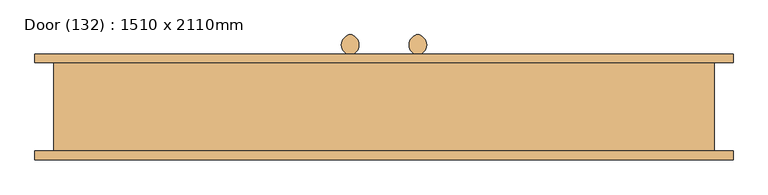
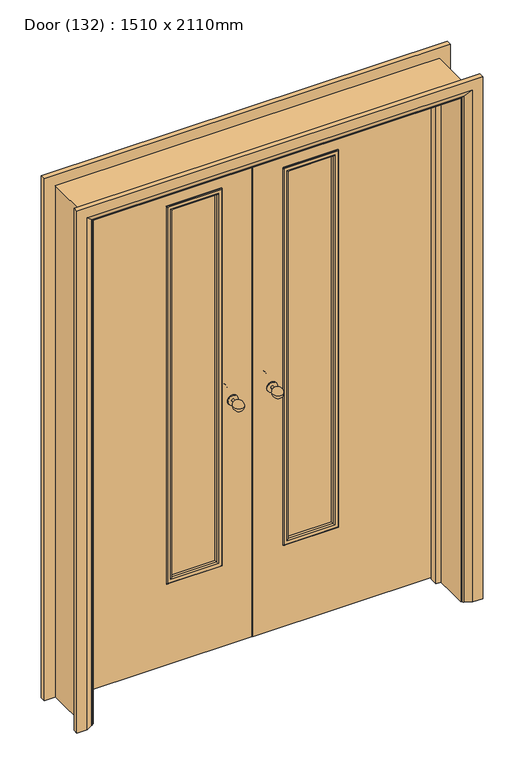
"""IFC4 building model written with IfcOpenShell, lengths in millimetres: door geometry, Door (132) : 1510 x 2110mm."""

from ifc_helpers import new_model, si_unit, point, frame, origin, place, context, project, spatial, polyline, circle_curve, ellipse_curve, trimmed, outline, extrude, faceted_brep, source, transform, mapped, element, save
from ifc_brep_helpers import plane_surface, cylinder_surface, revolved_surface, advanced_brep


def door_132_1510_x_2110mm_8a823f66(model_context):
    return source(origin(), model_context, "Body", "SolidModel", [
        advanced_brep(
        [(81.5, 49.0, 1007.0), (76.5, 4.562589, 1007.0), (71.5, 49.0, 1007.0), (71.5, 64.0, 1007.0), (81.5, 64.0, 1007.0), (56.5, 68.0, 1007.0), (96.5, 68.0, 1007.0), (56.5, 64.0, 1007.0), (96.5, 64.0, 1007.0)],
        [
            (0, 1, circle_curve(frame((73.3115138, 27.4213505, 1007.0), z_axis=(0.0, 0.0, -1.0), x_axis=(0.0, 1.0, 0.0)), 23.0800654)),
            (1, 2, circle_curve(frame((79.6884862, 27.4213505, 1007.0), z_axis=(0.0, 0.0, -1.0), x_axis=(0.0, 1.0, 0.0)), 23.0800654)),
            (2, 0, circle_curve(frame((76.5, 49.0, 1007.0), z_axis=(0.0, -1.0, 0.0), x_axis=(-1.0, 0.0, 0.0)), 5.0)),
            (0, 2, circle_curve(frame((76.5, 49.0, 1007.0), z_axis=(0.0, -1.0, 0.0), x_axis=(-1.0, 0.0, 0.0)), 5.0)),
            (2, 3),
            (3, 4, circle_curve(frame((76.5, 64.0, 1007.0), z_axis=(0.0, -1.0, 0.0), x_axis=(-1.0, 0.0, 0.0)), 5.0)),
            (4, 0),
            (4, 3, circle_curve(frame((76.5, 64.0, 1007.0), z_axis=(0.0, -1.0, 0.0), x_axis=(-1.0, 0.0, 0.0)), 5.0)),
            (5, 6, circle_curve(frame((76.5, 68.0, 1007.0), z_axis=(0.0, 1.0, 0.0), x_axis=(1.0, 0.0, 0.0)), 20.0)),
            (6, 5, circle_curve(frame((76.5, 68.0, 1007.0), z_axis=(0.0, 1.0, 0.0), x_axis=(1.0, 0.0, 0.0)), 20.0)),
            (7, 8, circle_curve(frame((76.5, 64.0, 1007.0), z_axis=(0.0, -1.0, 0.0), x_axis=(1.0, 0.0, 0.0)), 20.0)),
            (8, 7, circle_curve(frame((76.5, 64.0, 1007.0), z_axis=(0.0, -1.0, 0.0), x_axis=(1.0, 0.0, 0.0)), 20.0)),
            (6, 8),
            (7, 5),
        ],
        [
            revolved_surface(trimmed(ellipse_curve(frame((79.6884862, 27.4213505, 1007.0), z_axis=(0.0, 0.0, -1.0), x_axis=(0.0, 1.0, 0.0)), 23.0800654, 23.0800654), [point((76.5, 4.562589, 1007.0))], [point((71.5, 49.0, 1007.0))], True, "CARTESIAN"), (76.5, 64.0, 1007.0), (0.0, 1.0, 0.0)),
            cylinder_surface(frame((76.5, 64.0, 1007.0), z_axis=(0.0, 1.0, 0.0), x_axis=(-1.0, 0.0, 0.0)), 5.0),
            plane_surface(frame((96.5, 68.0, 1007.0), z_axis=(0.0, 1.0, 0.0), x_axis=(0.0, 0.0, 1.0))),
            plane_surface(frame((96.5, 64.0, 1007.0), z_axis=(0.0, -1.0, 0.0), x_axis=(0.0, 0.0, -1.0))),
            cylinder_surface(frame((76.5, 64.0, 1007.0), z_axis=(0.0, 1.0, 0.0), x_axis=(1.0, 0.0, 0.0)), 20.0),
        ],
        [
            (0, [[1, 2, 3]]),
            (0, [[-1, 4, -2]]),
            (1, [[5, 6, 7, -3]]),
            (1, [[-7, 8, -5, -4]]),
            (2, [[9, 10]]),
            (3, [[11, 12], [-8, -6]]),
            (4, [[13, -11, 14, -10]]),
            (4, [[-14, -12, -13, -9]]),
        ],
    ),
        advanced_brep(
        [(-71.5, 49.0, 1007.0), (-76.5, 4.562589, 1007.0), (-81.5, 49.0, 1007.0), (-81.5, 64.0, 1007.0), (-71.5, 64.0, 1007.0), (-96.5, 68.0, 1007.0), (-56.5, 68.0, 1007.0), (-96.5, 64.0, 1007.0), (-56.5, 64.0, 1007.0)],
        [
            (0, 1, circle_curve(frame((-79.6884862, 27.4213505, 1007.0), z_axis=(0.0, 0.0, -1.0), x_axis=(0.0, 1.0, 0.0)), 23.0800654)),
            (1, 2, circle_curve(frame((-73.3115138, 27.4213505, 1007.0), z_axis=(0.0, 0.0, -1.0), x_axis=(0.0, 1.0, 0.0)), 23.0800654)),
            (2, 0, circle_curve(frame((-76.5, 49.0, 1007.0), z_axis=(0.0, -1.0, 0.0), x_axis=(-1.0, 0.0, 0.0)), 5.0)),
            (0, 2, circle_curve(frame((-76.5, 49.0, 1007.0), z_axis=(0.0, -1.0, 0.0), x_axis=(-1.0, 0.0, 0.0)), 5.0)),
            (2, 3),
            (3, 4, circle_curve(frame((-76.5, 64.0, 1007.0), z_axis=(0.0, -1.0, 0.0), x_axis=(-1.0, 0.0, 0.0)), 5.0)),
            (4, 0),
            (4, 3, circle_curve(frame((-76.5, 64.0, 1007.0), z_axis=(0.0, -1.0, 0.0), x_axis=(-1.0, 0.0, 0.0)), 5.0)),
            (5, 6, circle_curve(frame((-76.5, 68.0, 1007.0), z_axis=(0.0, 1.0, 0.0), x_axis=(1.0, 0.0, 0.0)), 20.0)),
            (6, 5, circle_curve(frame((-76.5, 68.0, 1007.0), z_axis=(0.0, 1.0, 0.0), x_axis=(1.0, 0.0, 0.0)), 20.0)),
            (7, 8, circle_curve(frame((-76.5, 64.0, 1007.0), z_axis=(0.0, -1.0, 0.0), x_axis=(1.0, 0.0, 0.0)), 20.0)),
            (8, 7, circle_curve(frame((-76.5, 64.0, 1007.0), z_axis=(0.0, -1.0, 0.0), x_axis=(1.0, 0.0, 0.0)), 20.0)),
            (6, 8),
            (7, 5),
        ],
        [
            revolved_surface(trimmed(ellipse_curve(frame((-73.3115138, 27.4213505, 1007.0), z_axis=(0.0, 0.0, -1.0), x_axis=(0.0, 1.0, 0.0)), 23.0800654, 23.0800654), [point((-76.5, 4.562589, 1007.0))], [point((-81.5, 49.0, 1007.0))], True, "CARTESIAN"), (-76.5, 64.0, 1007.0), (0.0, 1.0, 0.0)),
            cylinder_surface(frame((-76.5, 64.0, 1007.0), z_axis=(0.0, 1.0, 0.0), x_axis=(-1.0, 0.0, 0.0)), 5.0),
            plane_surface(frame((-56.5, 68.0, 1007.0), z_axis=(0.0, 1.0, 0.0), x_axis=(0.0, 0.0, 1.0))),
            plane_surface(frame((-56.5, 64.0, 1007.0), z_axis=(0.0, -1.0, 0.0), x_axis=(0.0, 0.0, -1.0))),
            cylinder_surface(frame((-76.5, 64.0, 1007.0), z_axis=(0.0, 1.0, 0.0), x_axis=(1.0, 0.0, 0.0)), 20.0),
        ],
        [
            (0, [[1, 2, 3]]),
            (0, [[-1, 4, -2]]),
            (1, [[5, 6, 7, -3]]),
            (1, [[-7, 8, -5, -4]]),
            (2, [[9, 10]]),
            (3, [[11, 12], [-8, -6]]),
            (4, [[13, -11, 14, -10]]),
            (4, [[-14, -12, -13, -9]]),
        ],
    ),
        advanced_brep(
        [(81.5, 119.0, 1007.0), (71.5, 119.0, 1007.0), (76.5, 163.437411, 1007.0), (81.5, 104.0, 1007.0), (71.5, 104.0, 1007.0), (56.5, 100.0, 1007.0), (96.5, 100.0, 1007.0), (56.5, 104.0, 1007.0), (96.5, 104.0, 1007.0)],
        [
            (0, 1, circle_curve(frame((76.5, 119.0, 1007.0), z_axis=(0.0, 1.0, 0.0), x_axis=(-1.0, 0.0, 0.0)), 5.0)),
            (1, 2, circle_curve(frame((79.6884862, 140.5786495, 1007.0), z_axis=(0.0, 0.0, -1.0), x_axis=(0.0, -1.0, 0.0)), 23.0800654)),
            (2, 0, circle_curve(frame((73.3115138, 140.5786495, 1007.0), z_axis=(0.0, 0.0, -1.0), x_axis=(0.0, -1.0, 0.0)), 23.0800654)),
            (1, 0, circle_curve(frame((76.5, 119.0, 1007.0), z_axis=(0.0, 1.0, 0.0), x_axis=(-1.0, 0.0, 0.0)), 5.0)),
            (0, 3),
            (3, 4, circle_curve(frame((76.5, 104.0, 1007.0), z_axis=(0.0, 1.0, 0.0), x_axis=(-1.0, 0.0, 0.0)), 5.0)),
            (4, 1),
            (4, 3, circle_curve(frame((76.5, 104.0, 1007.0), z_axis=(0.0, 1.0, 0.0), x_axis=(-1.0, 0.0, 0.0)), 5.0)),
            (5, 6, circle_curve(frame((76.5, 100.0, 1007.0), z_axis=(0.0, -1.0, 0.0), x_axis=(1.0, 0.0, 0.0)), 20.0)),
            (6, 5, circle_curve(frame((76.5, 100.0, 1007.0), z_axis=(0.0, -1.0, 0.0), x_axis=(1.0, 0.0, 0.0)), 20.0)),
            (7, 8, circle_curve(frame((76.5, 104.0, 1007.0), z_axis=(0.0, 1.0, 0.0), x_axis=(1.0, 0.0, 0.0)), 20.0)),
            (8, 7, circle_curve(frame((76.5, 104.0, 1007.0), z_axis=(0.0, 1.0, 0.0), x_axis=(1.0, 0.0, 0.0)), 20.0)),
            (5, 7),
            (8, 6),
        ],
        [
            revolved_surface(trimmed(ellipse_curve(frame((79.6884862, 140.5786495, 1007.0), z_axis=(0.0, 0.0, 1.0), x_axis=(0.0, -1.0, 0.0)), 23.0800654, 23.0800654), [point((76.5, 163.437411, 1007.0))], [point((71.5, 119.0, 1007.0))], True, "CARTESIAN"), (76.5, 104.0, 1007.0), (0.0, -1.0, 0.0)),
            cylinder_surface(frame((76.5, 104.0, 1007.0), z_axis=(0.0, -1.0, 0.0), x_axis=(-1.0, 0.0, 0.0)), 5.0),
            plane_surface(frame((96.5, 100.0, 1007.0), z_axis=(0.0, -1.0, 0.0), x_axis=(0.0, 0.0, 1.0))),
            plane_surface(frame((96.5, 104.0, 1007.0), z_axis=(0.0, 1.0, 0.0), x_axis=(0.0, 0.0, -1.0))),
            cylinder_surface(frame((76.5, 104.0, 1007.0), z_axis=(0.0, -1.0, 0.0), x_axis=(1.0, 0.0, 0.0)), 20.0),
        ],
        [
            (0, [[1, 2, 3]]),
            (0, [[-2, 4, -3]]),
            (1, [[-1, 5, 6, 7]]),
            (1, [[-4, -7, 8, -5]]),
            (2, [[9, 10]]),
            (3, [[11, 12], [-6, -8]]),
            (4, [[-9, 13, -12, 14]]),
            (4, [[-10, -14, -11, -13]]),
        ],
    ),
        advanced_brep(
        [(-71.5, 119.0, 1007.0), (-81.5, 119.0, 1007.0), (-76.5, 163.437411, 1007.0), (-71.5, 104.0, 1007.0), (-81.5, 104.0, 1007.0), (-96.5, 100.0, 1007.0), (-56.5, 100.0, 1007.0), (-96.5, 104.0, 1007.0), (-56.5, 104.0, 1007.0)],
        [
            (0, 1, circle_curve(frame((-76.5, 119.0, 1007.0), z_axis=(0.0, 1.0, 0.0), x_axis=(-1.0, 0.0, 0.0)), 5.0)),
            (1, 2, circle_curve(frame((-73.3115138, 140.5786495, 1007.0), z_axis=(0.0, 0.0, -1.0), x_axis=(0.0, -1.0, 0.0)), 23.0800654)),
            (2, 0, circle_curve(frame((-79.6884862, 140.5786495, 1007.0), z_axis=(0.0, 0.0, -1.0), x_axis=(0.0, -1.0, 0.0)), 23.0800654)),
            (1, 0, circle_curve(frame((-76.5, 119.0, 1007.0), z_axis=(0.0, 1.0, 0.0), x_axis=(-1.0, 0.0, 0.0)), 5.0)),
            (0, 3),
            (3, 4, circle_curve(frame((-76.5, 104.0, 1007.0), z_axis=(0.0, 1.0, 0.0), x_axis=(-1.0, 0.0, 0.0)), 5.0)),
            (4, 1),
            (4, 3, circle_curve(frame((-76.5, 104.0, 1007.0), z_axis=(0.0, 1.0, 0.0), x_axis=(-1.0, 0.0, 0.0)), 5.0)),
            (5, 6, circle_curve(frame((-76.5, 100.0, 1007.0), z_axis=(0.0, -1.0, 0.0), x_axis=(1.0, 0.0, 0.0)), 20.0)),
            (6, 5, circle_curve(frame((-76.5, 100.0, 1007.0), z_axis=(0.0, -1.0, 0.0), x_axis=(1.0, 0.0, 0.0)), 20.0)),
            (7, 8, circle_curve(frame((-76.5, 104.0, 1007.0), z_axis=(0.0, 1.0, 0.0), x_axis=(1.0, 0.0, 0.0)), 20.0)),
            (8, 7, circle_curve(frame((-76.5, 104.0, 1007.0), z_axis=(0.0, 1.0, 0.0), x_axis=(1.0, 0.0, 0.0)), 20.0)),
            (5, 7),
            (8, 6),
        ],
        [
            revolved_surface(trimmed(ellipse_curve(frame((-73.3115138, 140.5786495, 1007.0), z_axis=(0.0, 0.0, 1.0), x_axis=(0.0, -1.0, 0.0)), 23.0800654, 23.0800654), [point((-76.5, 163.437411, 1007.0))], [point((-81.5, 119.0, 1007.0))], True, "CARTESIAN"), (-76.5, 104.0, 1007.0), (0.0, -1.0, 0.0)),
            cylinder_surface(frame((-76.5, 104.0, 1007.0), z_axis=(0.0, -1.0, 0.0), x_axis=(-1.0, 0.0, 0.0)), 5.0),
            plane_surface(frame((-56.5, 100.0, 1007.0), z_axis=(0.0, -1.0, 0.0), x_axis=(0.0, 0.0, 1.0))),
            plane_surface(frame((-56.5, 104.0, 1007.0), z_axis=(0.0, 1.0, 0.0), x_axis=(0.0, 0.0, -1.0))),
            cylinder_surface(frame((-76.5, 104.0, 1007.0), z_axis=(0.0, -1.0, 0.0), x_axis=(1.0, 0.0, 0.0)), 20.0),
        ],
        [
            (0, [[1, 2, 3]]),
            (0, [[-2, 4, -3]]),
            (1, [[-1, 5, 6, 7]]),
            (1, [[-4, -7, 8, -5]]),
            (2, [[9, 10]]),
            (3, [[11, 12], [-6, -8]]),
            (4, [[-9, 13, -12, 14]]),
            (4, [[-10, -14, -11, -13]]),
        ],
    ),
        extrude(outline(polyline([(2102.0, -747.0), (0.0, -747.0), (0.0, -715.0), (2070.0, -715.0), (2070.0, 715.0), (0.0, 715.0), (0.0, 747.0), (2102.0, 747.0), (2102.0, -747.0)])), frame((0.0, -100.0, 0.0), z_axis=(0.0, 1.0, 0.0), x_axis=(0.0, 0.0, 1.0)), (0.0, 0.0, 1.0), 200.0),
        faceted_brep([(-696.0, 65.0, 0.0), (-696.0, 33.0, 0.0), (-715.0, 33.0, 0.0), (-715.0, 65.0, 0.0), (-696.0, 65.0, 2051.0), (-696.0, 33.0, 2051.0), (-715.0, 33.0, 2070.0), (-715.0, 65.0, 2070.0), (696.0, 65.0, 0.0), (715.0, 65.0, 0.0), (715.0, 33.0, 0.0), (696.0, 33.0, 0.0), (696.0, 65.0, 2051.0), (715.0, 65.0, 2070.0), (715.0, 33.0, 2070.0), (696.0, 33.0, 2051.0)], [[[0, 1, 2, 3]], [[1, 0, 4, 5]], [[2, 1, 5, 6]], [[3, 2, 6, 7]], [[0, 3, 7, 4]], [[8, 9, 10, 11]], [[12, 13, 9, 8]], [[13, 14, 10, 9]], [[14, 15, 11, 10]], [[15, 12, 8, 11]], [[5, 4, 12, 15]], [[6, 5, 15, 14]], [[7, 6, 14, 13]], [[4, 7, 13, 12]]]),
        advanced_brep(
        [(790.0, 120.0, 0.0), (790.0, 100.0, 0.0), (720.0, 100.0, 0.0), (724.0, 106.0, 0.0), (750.0, 120.0, 0.0), (790.0, 120.0, 2145.0), (790.0, 100.0, 2145.0), (-790.0, 100.0, 2145.0), (-790.0, 100.0, 0.0), (-720.0, 100.0, 0.0), (-720.0, 100.0, 2075.0), (720.0, 100.0, 2075.0), (724.0, 106.0, 2079.0), (750.0, 120.0, 2105.0), (-750.0, 120.0, 2105.0), (-750.0, 120.0, 0.0), (-790.0, 120.0, 0.0), (-790.0, 120.0, 2145.0), (-724.0, 106.0, 0.0), (-724.0, 106.0, 2079.0)],
        [
            (0, 1),
            (1, 2),
            (2, 3, circle_curve(frame((728.0, 99.0, 0.0), z_axis=(0.0, 0.0, -1.0), x_axis=(1.0, 0.0, 0.0)), 8.0622577)),
            (3, 4),
            (4, 0),
            (0, 5),
            (5, 6),
            (6, 1),
            (6, 7),
            (7, 8),
            (8, 9),
            (9, 10),
            (10, 11),
            (11, 2),
            (11, 12, ellipse_curve(frame((728.0, 99.0, 2083.0), z_axis=(0.7071067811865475, 0.0, -0.7071067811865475), x_axis=(-0.7071067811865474, 0.0, -0.7071067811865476)), 11.4017543, 8.0622577)),
            (12, 3),
            (12, 13),
            (13, 4),
            (13, 14),
            (14, 15),
            (15, 16),
            (16, 17),
            (17, 5),
            (7, 17),
            (16, 8),
            (15, 18),
            (18, 9, circle_curve(frame((-728.0, 99.0, 0.0), z_axis=(0.0, 0.0, -1.0), x_axis=(-1.0, 0.0, 0.0)), 8.0622577)),
            (19, 10, ellipse_curve(frame((-728.0, 99.0, 2083.0), z_axis=(-0.7071067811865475, 0.0, -0.7071067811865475), x_axis=(-0.7071067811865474, 0.0, 0.7071067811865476)), 11.4017543, 8.0622577)),
            (18, 19),
            (14, 19),
            (19, 12),
        ],
        [
            plane_surface(frame((720.0, 100.0, 0.0), z_axis=(0.0, 0.0, -1.0), x_axis=(0.0, -1.0, 0.0))),
            plane_surface(frame((790.0, 120.0, 0.0), z_axis=(1.0, 0.0, 0.0), x_axis=(0.0, 0.0, 1.0))),
            plane_surface(frame((790.0, 100.0, 0.0), z_axis=(0.0, -1.0, 0.0), x_axis=(0.0, 0.0, 1.0))),
            cylinder_surface(frame((728.0, 99.0, 0.0), z_axis=(0.0, 0.0, -1.0), x_axis=(1.0, 0.0, 0.0)), 8.0622577),
            plane_surface(frame((724.0, 106.0, 0.0), z_axis=(-0.4740998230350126, 0.8804710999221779, 0.0), x_axis=(0.0, 0.0, 1.0))),
            plane_surface(frame((750.0, 120.0, 0.0), z_axis=(0.0, 1.0, 0.0), x_axis=(0.0, 0.0, 1.0))),
            plane_surface(frame((-790.0, 120.0, 2145.0), z_axis=(-1.0, 0.0, 0.0), x_axis=(0.0, 0.0, -1.0))),
            plane_surface(frame((-720.0, 100.0, 0.0), z_axis=(0.0, 0.0, -1.0), x_axis=(0.0, -1.0, 0.0))),
            cylinder_surface(frame((-728.0, 99.0, 2075.0), z_axis=(0.0, 0.0, 1.0), x_axis=(-1.0, 0.0, 0.0)), 8.0622577),
            plane_surface(frame((-724.0, 106.0, 2079.0), z_axis=(0.4740998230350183, 0.8804710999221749, 0.0), x_axis=(0.0, 0.0, -1.0))),
            plane_surface(frame((790.0, 120.0, 2145.0), z_axis=(0.0, 0.0, 1.0), x_axis=(-1.0, 0.0, 0.0))),
            cylinder_surface(frame((720.0, 99.0, 2083.0), z_axis=(1.0, 0.0, 0.0), x_axis=(0.0, 0.0, 1.0)), 8.0622577),
            plane_surface(frame((724.0, 106.0, 2079.0), z_axis=(0.0, 0.8804710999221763, -0.4740998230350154), x_axis=(-1.0, 0.0, 0.0))),
        ],
        [
            (0, [[1, 2, 3, 4, 5]]),
            (1, [[-1, 6, 7, 8]]),
            (2, [[-2, -8, 9, 10, 11, 12, 13, 14]]),
            (3, [[-3, -14, 15, 16]]),
            (4, [[-4, -16, 17, 18]]),
            (5, [[-5, -18, 19, 20, 21, 22, 23, -6]]),
            (6, [[24, -22, 25, -10]]),
            (7, [[-21, 26, 27, -11, -25]]),
            (8, [[28, -12, -27, 29]]),
            (9, [[30, -29, -26, -20]]),
            (10, [[-7, -23, -24, -9]]),
            (11, [[-15, -13, -28, 31]]),
            (12, [[-17, -31, -30, -19]]),
        ],
    ),
        advanced_brep(
        [(-790.0, -120.0, 0.0), (-790.0, -100.0, 0.0), (-720.0, -100.0, 0.0), (-724.0, -106.0, 0.0), (-750.0, -120.0, 0.0), (-790.0, -120.0, 2145.0), (-790.0, -100.0, 2145.0), (790.0, -100.0, 2145.0), (790.0, -100.0, 0.0), (720.0, -100.0, 0.0), (720.0, -100.0, 2075.0), (-720.0, -100.0, 2075.0), (-724.0, -106.0, 2079.0), (-750.0, -120.0, 2105.0), (750.0, -120.0, 2105.0), (750.0, -120.0, 0.0), (790.0, -120.0, 0.0), (790.0, -120.0, 2145.0), (724.0, -106.0, 0.0), (724.0, -106.0, 2079.0)],
        [
            (0, 1),
            (1, 2),
            (2, 3, circle_curve(frame((-728.0, -99.0, 0.0), z_axis=(0.0, 0.0, -1.0), x_axis=(-1.0, 0.0, 0.0)), 8.0622577)),
            (3, 4),
            (4, 0),
            (0, 5),
            (5, 6),
            (6, 1),
            (6, 7),
            (7, 8),
            (8, 9),
            (9, 10),
            (10, 11),
            (11, 2),
            (11, 12, ellipse_curve(frame((-728.0, -99.0, 2083.0), z_axis=(-0.7071067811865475, 0.0, -0.7071067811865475), x_axis=(0.7071067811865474, 0.0, -0.7071067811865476)), 11.4017543, 8.0622577)),
            (12, 3),
            (12, 13),
            (13, 4),
            (13, 14),
            (14, 15),
            (15, 16),
            (16, 17),
            (17, 5),
            (7, 17),
            (16, 8),
            (15, 18),
            (18, 9, circle_curve(frame((728.0, -99.0, 0.0), z_axis=(0.0, 0.0, -1.0), x_axis=(1.0, 0.0, 0.0)), 8.0622577)),
            (19, 10, ellipse_curve(frame((728.0, -99.0, 2083.0), z_axis=(0.7071067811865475, 0.0, -0.7071067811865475), x_axis=(0.7071067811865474, 0.0, 0.7071067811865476)), 11.4017543, 8.0622577)),
            (18, 19),
            (14, 19),
            (19, 12),
        ],
        [
            plane_surface(frame((-720.0, -100.0, 0.0), z_axis=(0.0, 0.0, -1.0), x_axis=(0.0, -1.0, 0.0))),
            plane_surface(frame((-790.0, -120.0, 0.0), z_axis=(-1.0, 0.0, 0.0), x_axis=(0.0, 0.0, 1.0))),
            plane_surface(frame((-790.0, -100.0, 0.0), z_axis=(0.0, 1.0, 0.0), x_axis=(0.0, 0.0, 1.0))),
            cylinder_surface(frame((-728.0, -99.0, 0.0), z_axis=(0.0, 0.0, -1.0), x_axis=(-1.0, 0.0, 0.0)), 8.0622577),
            plane_surface(frame((-724.0, -106.0, 0.0), z_axis=(0.4740998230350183, -0.8804710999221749, 0.0), x_axis=(0.0, 0.0, 1.0))),
            plane_surface(frame((-750.0, -120.0, 0.0), z_axis=(0.0, -1.0, 0.0), x_axis=(0.0, 0.0, 1.0))),
            plane_surface(frame((790.0, -120.0, 2145.0), z_axis=(1.0, 0.0, 0.0), x_axis=(0.0, 0.0, -1.0))),
            plane_surface(frame((720.0, -100.0, 0.0), z_axis=(0.0, 0.0, -1.0), x_axis=(0.0, -1.0, 0.0))),
            cylinder_surface(frame((728.0, -99.0, 2075.0), z_axis=(0.0, 0.0, 1.0), x_axis=(1.0, 0.0, 0.0)), 8.0622577),
            plane_surface(frame((724.0, -106.0, 2079.0), z_axis=(-0.4740998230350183, -0.8804710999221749, 0.0), x_axis=(0.0, 0.0, -1.0))),
            plane_surface(frame((-790.0, -120.0, 2145.0), z_axis=(0.0, 0.0, 1.0), x_axis=(1.0, 0.0, 0.0))),
            cylinder_surface(frame((-720.0, -99.0, 2083.0), z_axis=(-1.0, 0.0, 0.0), x_axis=(0.0, 0.0, 1.0)), 8.0622577),
            plane_surface(frame((-724.0, -106.0, 2079.0), z_axis=(0.0, -0.8804710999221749, -0.4740998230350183), x_axis=(1.0, 0.0, 0.0))),
        ],
        [
            (0, [[1, 2, 3, 4, 5]]),
            (1, [[-1, 6, 7, 8]]),
            (2, [[-2, -8, 9, 10, 11, 12, 13, 14]]),
            (3, [[-3, -14, 15, 16]]),
            (4, [[-4, -16, 17, 18]]),
            (5, [[-5, -18, 19, 20, 21, 22, 23, -6]]),
            (6, [[24, -22, 25, -10]]),
            (7, [[-21, 26, 27, -11, -25]]),
            (8, [[28, -12, -27, 29]]),
            (9, [[30, -29, -26, -20]]),
            (10, [[-7, -23, -24, -9]]),
            (11, [[-15, -13, -28, 31]]),
            (12, [[-17, -31, -30, -19]]),
        ],
    ),
        extrude(outline(polyline([(5.753223, 712.0), (2067.0, 712.0), (2067.0, 1.5), (5.753223, 1.5), (5.753223, 712.0)]), holes=[polyline([(1885.0, 126.5), (1885.0, 326.5), (350.0, 326.5), (350.0, 126.5), (1885.0, 126.5)])]), frame((0.0, 68.0, 0.0), z_axis=(0.0, 1.0, 0.0), x_axis=(0.0, 0.0, 1.0)), (0.0, 0.0, 1.0), 32.0),
        extrude(outline(polyline([(5.753223, -712.0), (5.753223, -1.5), (2067.0, -1.5), (2067.0, -712.0), (5.753223, -712.0)]), holes=[polyline([(1885.0, -326.5), (1885.0, -126.5), (350.0, -126.5), (350.0, -326.5), (1885.0, -326.5)])]), frame((0.0, 68.0, 0.0), z_axis=(0.0, 1.0, 0.0), x_axis=(0.0, 0.0, 1.0)), (0.0, 0.0, 1.0), 32.0),
        extrude(outline(polyline([(326.5, 78.0), (126.5, 78.0), (126.5, 90.0), (326.5, 90.0), (326.5, 78.0)])), frame((0.0, 0.0, 350.0), z_axis=(0.0, 0.0, 1.0), x_axis=(1.0, 0.0, 0.0)), (0.0, 0.0, 1.0), 1535.0),
        extrude(outline(polyline([(-126.5, 78.0), (-326.5, 78.0), (-326.5, 90.0), (-126.5, 90.0), (-126.5, 78.0)])), frame((0.0, 0.0, 350.0), z_axis=(0.0, 0.0, 1.0), x_axis=(1.0, 0.0, 0.0)), (0.0, 0.0, 1.0), 1535.0),
        advanced_brep(
        [(-326.5, 90.0, 1885.0), (-326.5, 100.0, 1885.0), (-326.5, 100.0, 350.0), (-326.5, 90.0, 350.0), (-314.5, 101.0, 1873.0), (-314.5, 90.0, 1873.0), (-314.5, 90.0, 362.0), (-314.5, 101.0, 362.0), (-319.5, 106.0, 1878.0), (-319.5, 106.0, 357.0), (-334.5, 104.0, 1893.0), (-332.5, 106.0, 1891.0), (-332.5, 106.0, 344.0), (-334.5, 104.0, 342.0), (-334.5, 100.0, 1893.0), (-334.5, 100.0, 342.0), (-126.5, 100.0, 350.0), (-126.5, 90.0, 350.0), (-138.5, 90.0, 362.0), (-138.5, 101.0, 362.0), (-133.5, 106.0, 357.0), (-120.5, 106.0, 344.0), (-118.5, 104.0, 342.0), (-118.5, 100.0, 342.0), (-126.5, 100.0, 1885.0), (-126.5, 90.0, 1885.0), (-138.5, 90.0, 1873.0), (-138.5, 101.0, 1873.0), (-133.5, 106.0, 1878.0), (-120.5, 106.0, 1891.0), (-118.5, 104.0, 1893.0), (-118.5, 100.0, 1893.0)],
        [
            (0, 1),
            (1, 2),
            (2, 3),
            (3, 0),
            (4, 5),
            (5, 6),
            (6, 7),
            (7, 4),
            (8, 4, ellipse_curve(frame((-319.5, 101.0, 1878.0), z_axis=(-0.7071067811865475, 0.0, -0.7071067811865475), x_axis=(-0.7071067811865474, 0.0, 0.7071067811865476)), 7.0710678, 5.0)),
            (7, 9, ellipse_curve(frame((-319.5, 101.0, 357.0), z_axis=(-0.7071067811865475, 0.0, 0.7071067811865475), x_axis=(0.7071067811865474, 0.0, 0.7071067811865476)), 7.0710678, 5.0)),
            (9, 8),
            (10, 11, ellipse_curve(frame((-332.5, 104.0, 1891.0), z_axis=(-0.7071067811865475, 0.0, -0.7071067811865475), x_axis=(-0.7071067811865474, 0.0, 0.7071067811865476)), 2.8284271, 2.0)),
            (11, 12),
            (12, 13, ellipse_curve(frame((-332.5, 104.0, 344.0), z_axis=(-0.7071067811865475, 0.0, 0.7071067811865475), x_axis=(0.7071067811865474, 0.0, 0.7071067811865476)), 2.8284271, 2.0)),
            (13, 10),
            (14, 10),
            (13, 15),
            (15, 14),
            (2, 16),
            (16, 17),
            (17, 3),
            (6, 18),
            (18, 19),
            (19, 7),
            (19, 20, ellipse_curve(frame((-133.5, 101.0, 357.0), z_axis=(-0.7071067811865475, 0.0, -0.7071067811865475), x_axis=(-0.7071067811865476, 0.0, 0.7071067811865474)), 7.0710678, 5.0)),
            (20, 9),
            (12, 21),
            (21, 22, ellipse_curve(frame((-120.5, 104.0, 344.0), z_axis=(-0.7071067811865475, 0.0, -0.7071067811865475), x_axis=(-0.7071067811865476, 0.0, 0.7071067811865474)), 2.8284271, 2.0)),
            (22, 13),
            (22, 23),
            (23, 15),
            (16, 24),
            (24, 25),
            (25, 17),
            (18, 26),
            (26, 27),
            (27, 19),
            (27, 28, ellipse_curve(frame((-133.5, 101.0, 1878.0), z_axis=(0.7071067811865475, 0.0, -0.7071067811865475), x_axis=(-0.7071067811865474, 0.0, -0.7071067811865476)), 7.0710678, 5.0)),
            (28, 20),
            (21, 29),
            (29, 30, ellipse_curve(frame((-120.5, 104.0, 1891.0), z_axis=(0.7071067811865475, 0.0, -0.7071067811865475), x_axis=(-0.7071067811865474, 0.0, -0.7071067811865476)), 2.8284271, 2.0)),
            (30, 22),
            (30, 31),
            (31, 23),
            (31, 14),
            (1, 24),
            (0, 25),
            (5, 26),
            (4, 27),
            (8, 28),
            (11, 29),
            (10, 30),
        ],
        [
            plane_surface(frame((-326.5, 100.0, 1885.0), z_axis=(-1.0, 0.0, 0.0), x_axis=(0.0, 0.0, -1.0))),
            plane_surface(frame((-314.5, 90.0, 1873.0), z_axis=(1.0, 0.0, 0.0), x_axis=(0.0, 0.0, -1.0))),
            cylinder_surface(frame((-319.5, 101.0, 1885.0), z_axis=(0.0, 0.0, 1.0), x_axis=(-1.0, 0.0, 0.0)), 5.0),
            cylinder_surface(frame((-332.5, 104.0, 1885.0), z_axis=(0.0, 0.0, 1.0), x_axis=(-1.0, 0.0, 0.0)), 2.0),
            plane_surface(frame((-334.5, 104.0, 1893.0), z_axis=(-1.0, 0.0, 0.0), x_axis=(0.0, 0.0, -1.0))),
            plane_surface(frame((-326.5, 100.0, 350.0), z_axis=(0.0, 0.0, -1.0), x_axis=(1.0, 0.0, 0.0))),
            plane_surface(frame((-314.5, 90.0, 362.0), z_axis=(0.0, 0.0, 1.0), x_axis=(1.0, 0.0, 0.0))),
            cylinder_surface(frame((-326.5, 101.0, 357.0), z_axis=(-1.0, 0.0, 0.0), x_axis=(0.0, 0.0, -1.0)), 5.0),
            cylinder_surface(frame((-326.5, 104.0, 344.0), z_axis=(-1.0, 0.0, 0.0), x_axis=(0.0, 0.0, -1.0)), 2.0),
            plane_surface(frame((-334.5, 104.0, 342.0), z_axis=(0.0, 0.0, -1.0), x_axis=(1.0, 0.0, 0.0))),
            plane_surface(frame((-126.5, 100.0, 350.0), z_axis=(1.0, 0.0, 0.0), x_axis=(0.0, 0.0, 1.0))),
            plane_surface(frame((-138.5, 90.0, 362.0), z_axis=(-1.0, 0.0, 0.0), x_axis=(0.0, 0.0, 1.0))),
            cylinder_surface(frame((-133.5, 101.0, 350.0), z_axis=(0.0, 0.0, -1.0), x_axis=(1.0, 0.0, 0.0)), 5.0),
            cylinder_surface(frame((-120.5, 104.0, 350.0), z_axis=(0.0, 0.0, -1.0), x_axis=(1.0, 0.0, 0.0)), 2.0),
            plane_surface(frame((-118.5, 104.0, 342.0), z_axis=(1.0, 0.0, 0.0), x_axis=(0.0, 0.0, 1.0))),
            plane_surface(frame((-118.5, 100.0, 1893.0), z_axis=(0.0, -1.0, 0.0), x_axis=(-1.0, 0.0, 0.0))),
            plane_surface(frame((-126.5, 100.0, 1885.0), z_axis=(0.0, 0.0, 1.0), x_axis=(-1.0, 0.0, 0.0))),
            plane_surface(frame((-126.5, 90.0, 1885.0), z_axis=(0.0, -1.0, 0.0), x_axis=(-1.0, 0.0, 0.0))),
            plane_surface(frame((-138.5, 90.0, 1873.0), z_axis=(0.0, 0.0, -1.0), x_axis=(-1.0, 0.0, 0.0))),
            cylinder_surface(frame((-126.5, 101.0, 1878.0), z_axis=(1.0, 0.0, 0.0), x_axis=(0.0, 0.0, 1.0)), 5.0),
            plane_surface(frame((-133.5, 106.0, 1878.0), z_axis=(0.0, 1.0, 0.0), x_axis=(-1.0, 0.0, 0.0))),
            cylinder_surface(frame((-126.5, 104.0, 1891.0), z_axis=(1.0, 0.0, 0.0), x_axis=(0.0, 0.0, 1.0)), 2.0),
            plane_surface(frame((-118.5, 104.0, 1893.0), z_axis=(0.0, 0.0, 1.0), x_axis=(-1.0, 0.0, 0.0))),
        ],
        [
            (0, [[1, 2, 3, 4]]),
            (1, [[5, 6, 7, 8]]),
            (2, [[9, -8, 10, 11]]),
            (3, [[12, 13, 14, 15]]),
            (4, [[16, -15, 17, 18]]),
            (5, [[-3, 19, 20, 21]]),
            (6, [[-7, 22, 23, 24]]),
            (7, [[-10, -24, 25, 26]]),
            (8, [[-14, 27, 28, 29]]),
            (9, [[-17, -29, 30, 31]]),
            (10, [[-20, 32, 33, 34]]),
            (11, [[-23, 35, 36, 37]]),
            (12, [[-25, -37, 38, 39]]),
            (13, [[-28, 40, 41, 42]]),
            (14, [[-30, -42, 43, 44]]),
            (15, [[-31, -44, 45, -18], [46, -32, -19, -2]]),
            (16, [[-33, -46, -1, 47]]),
            (17, [[-21, -34, -47, -4], [48, -35, -22, -6]]),
            (18, [[-36, -48, -5, 49]]),
            (19, [[-38, -49, -9, 50]]),
            (20, [[51, -40, -27, -13], [-26, -39, -50, -11]]),
            (21, [[-41, -51, -12, 52]]),
            (22, [[-43, -52, -16, -45]]),
        ],
    ),
        advanced_brep(
        [(326.5, 90.0, 350.0), (326.5, 100.0, 350.0), (326.5, 100.0, 1885.0), (326.5, 90.0, 1885.0), (314.5, 101.0, 362.0), (314.5, 90.0, 362.0), (314.5, 90.0, 1873.0), (314.5, 101.0, 1873.0), (319.5, 106.0, 357.0), (319.5, 106.0, 1878.0), (334.5, 104.0, 342.0), (332.5, 106.0, 344.0), (332.5, 106.0, 1891.0), (334.5, 104.0, 1893.0), (334.5, 100.0, 342.0), (334.5, 100.0, 1893.0), (126.5, 100.0, 1885.0), (126.5, 90.0, 1885.0), (138.5, 90.0, 1873.0), (138.5, 101.0, 1873.0), (133.5, 106.0, 1878.0), (120.5, 106.0, 1891.0), (118.5, 104.0, 1893.0), (118.5, 100.0, 1893.0), (126.5, 100.0, 350.0), (126.5, 90.0, 350.0), (138.5, 90.0, 362.0), (138.5, 101.0, 362.0), (133.5, 106.0, 357.0), (120.5, 106.0, 344.0), (118.5, 104.0, 342.0), (118.5, 100.0, 342.0)],
        [
            (0, 1),
            (1, 2),
            (2, 3),
            (3, 0),
            (4, 5),
            (5, 6),
            (6, 7),
            (7, 4),
            (8, 4, ellipse_curve(frame((319.5, 101.0, 357.0), z_axis=(0.7071067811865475, 0.0, 0.7071067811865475), x_axis=(0.7071067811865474, 0.0, -0.7071067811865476)), 7.0710678, 5.0)),
            (7, 9, ellipse_curve(frame((319.5, 101.0, 1878.0), z_axis=(0.7071067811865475, 0.0, -0.7071067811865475), x_axis=(-0.7071067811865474, 0.0, -0.7071067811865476)), 7.0710678, 5.0)),
            (9, 8),
            (10, 11, ellipse_curve(frame((332.5, 104.0, 344.0), z_axis=(0.7071067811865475, 0.0, 0.7071067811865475), x_axis=(0.7071067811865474, 0.0, -0.7071067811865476)), 2.8284271, 2.0)),
            (11, 12),
            (12, 13, ellipse_curve(frame((332.5, 104.0, 1891.0), z_axis=(0.7071067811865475, 0.0, -0.7071067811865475), x_axis=(-0.7071067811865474, 0.0, -0.7071067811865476)), 2.8284271, 2.0)),
            (13, 10),
            (14, 10),
            (13, 15),
            (15, 14),
            (2, 16),
            (16, 17),
            (17, 3),
            (6, 18),
            (18, 19),
            (19, 7),
            (19, 20, ellipse_curve(frame((133.5, 101.0, 1878.0), z_axis=(0.7071067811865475, 0.0, 0.7071067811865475), x_axis=(0.7071067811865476, 0.0, -0.7071067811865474)), 7.0710678, 5.0)),
            (20, 9),
            (12, 21),
            (21, 22, ellipse_curve(frame((120.5, 104.0, 1891.0), z_axis=(0.7071067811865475, 0.0, 0.7071067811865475), x_axis=(0.7071067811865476, 0.0, -0.7071067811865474)), 2.8284271, 2.0)),
            (22, 13),
            (22, 23),
            (23, 15),
            (16, 24),
            (24, 25),
            (25, 17),
            (18, 26),
            (26, 27),
            (27, 19),
            (27, 28, ellipse_curve(frame((133.5, 101.0, 357.0), z_axis=(-0.7071067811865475, 0.0, 0.7071067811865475), x_axis=(0.7071067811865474, 0.0, 0.7071067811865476)), 7.0710678, 5.0)),
            (28, 20),
            (21, 29),
            (29, 30, ellipse_curve(frame((120.5, 104.0, 344.0), z_axis=(-0.7071067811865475, 0.0, 0.7071067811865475), x_axis=(0.7071067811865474, 0.0, 0.7071067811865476)), 2.8284271, 2.0)),
            (30, 22),
            (30, 31),
            (31, 23),
            (31, 14),
            (1, 24),
            (0, 25),
            (5, 26),
            (4, 27),
            (8, 28),
            (11, 29),
            (10, 30),
        ],
        [
            plane_surface(frame((326.5, 100.0, 350.0), z_axis=(1.0, 0.0, 0.0), x_axis=(0.0, 0.0, 1.0))),
            plane_surface(frame((314.5, 90.0, 362.0), z_axis=(-1.0, 0.0, 0.0), x_axis=(0.0, 0.0, 1.0))),
            cylinder_surface(frame((319.5, 101.0, 350.0), z_axis=(0.0, 0.0, -1.0), x_axis=(1.0, 0.0, 0.0)), 5.0),
            cylinder_surface(frame((332.5, 104.0, 350.0), z_axis=(0.0, 0.0, -1.0), x_axis=(1.0, 0.0, 0.0)), 2.0),
            plane_surface(frame((334.5, 104.0, 342.0), z_axis=(1.0, 0.0, 0.0), x_axis=(0.0, 0.0, 1.0))),
            plane_surface(frame((326.5, 100.0, 1885.0), z_axis=(0.0, 0.0, 1.0), x_axis=(-1.0, 0.0, 0.0))),
            plane_surface(frame((314.5, 90.0, 1873.0), z_axis=(0.0, 0.0, -1.0), x_axis=(-1.0, 0.0, 0.0))),
            cylinder_surface(frame((326.5, 101.0, 1878.0), z_axis=(1.0, 0.0, 0.0), x_axis=(0.0, 0.0, 1.0)), 5.0),
            cylinder_surface(frame((326.5, 104.0, 1891.0), z_axis=(1.0, 0.0, 0.0), x_axis=(0.0, 0.0, 1.0)), 2.0),
            plane_surface(frame((334.5, 104.0, 1893.0), z_axis=(0.0, 0.0, 1.0), x_axis=(-1.0, 0.0, 0.0))),
            plane_surface(frame((126.5, 100.0, 1885.0), z_axis=(-1.0, 0.0, 0.0), x_axis=(0.0, 0.0, -1.0))),
            plane_surface(frame((138.5, 90.0, 1873.0), z_axis=(1.0, 0.0, 0.0), x_axis=(0.0, 0.0, -1.0))),
            cylinder_surface(frame((133.5, 101.0, 1885.0), z_axis=(0.0, 0.0, 1.0), x_axis=(-1.0, 0.0, 0.0)), 5.0),
            cylinder_surface(frame((120.5, 104.0, 1885.0), z_axis=(0.0, 0.0, 1.0), x_axis=(-1.0, 0.0, 0.0)), 2.0),
            plane_surface(frame((118.5, 104.0, 1893.0), z_axis=(-1.0, 0.0, 0.0), x_axis=(0.0, 0.0, -1.0))),
            plane_surface(frame((118.5, 100.0, 342.0), z_axis=(0.0, -1.0, 0.0), x_axis=(1.0, 0.0, 0.0))),
            plane_surface(frame((126.5, 100.0, 350.0), z_axis=(0.0, 0.0, -1.0), x_axis=(1.0, 0.0, 0.0))),
            plane_surface(frame((126.5, 90.0, 350.0), z_axis=(0.0, -1.0, 0.0), x_axis=(1.0, 0.0, 0.0))),
            plane_surface(frame((138.5, 90.0, 362.0), z_axis=(0.0, 0.0, 1.0), x_axis=(1.0, 0.0, 0.0))),
            cylinder_surface(frame((126.5, 101.0, 357.0), z_axis=(-1.0, 0.0, 0.0), x_axis=(0.0, 0.0, -1.0)), 5.0),
            plane_surface(frame((133.5, 106.0, 357.0), z_axis=(0.0, 1.0, 0.0), x_axis=(1.0, 0.0, 0.0))),
            cylinder_surface(frame((126.5, 104.0, 344.0), z_axis=(-1.0, 0.0, 0.0), x_axis=(0.0, 0.0, -1.0)), 2.0),
            plane_surface(frame((118.5, 104.0, 342.0), z_axis=(0.0, 0.0, -1.0), x_axis=(1.0, 0.0, 0.0))),
        ],
        [
            (0, [[1, 2, 3, 4]]),
            (1, [[5, 6, 7, 8]]),
            (2, [[9, -8, 10, 11]]),
            (3, [[12, 13, 14, 15]]),
            (4, [[16, -15, 17, 18]]),
            (5, [[-3, 19, 20, 21]]),
            (6, [[-7, 22, 23, 24]]),
            (7, [[-10, -24, 25, 26]]),
            (8, [[-14, 27, 28, 29]]),
            (9, [[-17, -29, 30, 31]]),
            (10, [[-20, 32, 33, 34]]),
            (11, [[-23, 35, 36, 37]]),
            (12, [[-25, -37, 38, 39]]),
            (13, [[-28, 40, 41, 42]]),
            (14, [[-30, -42, 43, 44]]),
            (15, [[-31, -44, 45, -18], [46, -32, -19, -2]]),
            (16, [[-33, -46, -1, 47]]),
            (17, [[-21, -34, -47, -4], [48, -35, -22, -6]]),
            (18, [[-36, -48, -5, 49]]),
            (19, [[-38, -49, -9, 50]]),
            (20, [[51, -40, -27, -13], [-26, -39, -50, -11]]),
            (21, [[-41, -51, -12, 52]]),
            (22, [[-43, -52, -16, -45]]),
        ],
    ),
        advanced_brep(
        [(-326.5, 78.0, 350.0), (-326.5, 68.0, 350.0), (-326.5, 68.0, 1885.0), (-326.5, 78.0, 1885.0), (-314.5, 67.0, 362.0), (-314.5, 78.0, 362.0), (-314.5, 78.0, 1873.0), (-314.5, 67.0, 1873.0), (-319.5, 62.0, 357.0), (-319.5, 62.0, 1878.0), (-334.5, 64.0, 342.0), (-332.5, 62.0, 344.0), (-332.5, 62.0, 1891.0), (-334.5, 64.0, 1893.0), (-334.5, 68.0, 342.0), (-334.5, 68.0, 1893.0), (-126.5, 68.0, 1885.0), (-126.5, 78.0, 1885.0), (-138.5, 78.0, 1873.0), (-138.5, 67.0, 1873.0), (-133.5, 62.0, 1878.0), (-120.5, 62.0, 1891.0), (-118.5, 64.0, 1893.0), (-118.5, 68.0, 1893.0), (-126.5, 68.0, 350.0), (-126.5, 78.0, 350.0), (-138.5, 78.0, 362.0), (-138.5, 67.0, 362.0), (-133.5, 62.0, 357.0), (-120.5, 62.0, 344.0), (-118.5, 64.0, 342.0), (-118.5, 68.0, 342.0)],
        [
            (0, 1),
            (1, 2),
            (2, 3),
            (3, 0),
            (4, 5),
            (5, 6),
            (6, 7),
            (7, 4),
            (8, 4, ellipse_curve(frame((-319.5, 67.0, 357.0), z_axis=(-0.7071067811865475, 0.0, 0.7071067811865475), x_axis=(-0.7071067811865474, 0.0, -0.7071067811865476)), 7.0710678, 5.0)),
            (7, 9, ellipse_curve(frame((-319.5, 67.0, 1878.0), z_axis=(-0.7071067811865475, 0.0, -0.7071067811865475), x_axis=(0.7071067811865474, 0.0, -0.7071067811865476)), 7.0710678, 5.0)),
            (9, 8),
            (10, 11, ellipse_curve(frame((-332.5, 64.0, 344.0), z_axis=(-0.7071067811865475, 0.0, 0.7071067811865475), x_axis=(-0.7071067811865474, 0.0, -0.7071067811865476)), 2.8284271, 2.0)),
            (11, 12),
            (12, 13, ellipse_curve(frame((-332.5, 64.0, 1891.0), z_axis=(-0.7071067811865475, 0.0, -0.7071067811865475), x_axis=(0.7071067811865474, 0.0, -0.7071067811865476)), 2.8284271, 2.0)),
            (13, 10),
            (14, 10),
            (13, 15),
            (15, 14),
            (2, 16),
            (16, 17),
            (17, 3),
            (6, 18),
            (18, 19),
            (19, 7),
            (19, 20, ellipse_curve(frame((-133.5, 67.0, 1878.0), z_axis=(-0.7071067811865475, 0.0, 0.7071067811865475), x_axis=(-0.7071067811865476, 0.0, -0.7071067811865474)), 7.0710678, 5.0)),
            (20, 9),
            (12, 21),
            (21, 22, ellipse_curve(frame((-120.5, 64.0, 1891.0), z_axis=(-0.7071067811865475, 0.0, 0.7071067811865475), x_axis=(-0.7071067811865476, 0.0, -0.7071067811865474)), 2.8284271, 2.0)),
            (22, 13),
            (22, 23),
            (23, 15),
            (16, 24),
            (24, 25),
            (25, 17),
            (18, 26),
            (26, 27),
            (27, 19),
            (27, 28, ellipse_curve(frame((-133.5, 67.0, 357.0), z_axis=(0.7071067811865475, 0.0, 0.7071067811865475), x_axis=(-0.7071067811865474, 0.0, 0.7071067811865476)), 7.0710678, 5.0)),
            (28, 20),
            (21, 29),
            (29, 30, ellipse_curve(frame((-120.5, 64.0, 344.0), z_axis=(0.7071067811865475, 0.0, 0.7071067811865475), x_axis=(-0.7071067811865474, 0.0, 0.7071067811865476)), 2.8284271, 2.0)),
            (30, 22),
            (30, 31),
            (31, 23),
            (31, 14),
            (1, 24),
            (0, 25),
            (5, 26),
            (4, 27),
            (8, 28),
            (11, 29),
            (10, 30),
        ],
        [
            plane_surface(frame((-326.5, 68.0, 350.0), z_axis=(-1.0, 0.0, 0.0), x_axis=(0.0, 0.0, 1.0))),
            plane_surface(frame((-314.5, 78.0, 362.0), z_axis=(1.0, 0.0, 0.0), x_axis=(0.0, 0.0, 1.0))),
            cylinder_surface(frame((-319.5, 67.0, 350.0), z_axis=(0.0, 0.0, -1.0), x_axis=(-1.0, 0.0, 0.0)), 5.0),
            cylinder_surface(frame((-332.5, 64.0, 350.0), z_axis=(0.0, 0.0, -1.0), x_axis=(-1.0, 0.0, 0.0)), 2.0),
            plane_surface(frame((-334.5, 64.0, 342.0), z_axis=(-1.0, 0.0, 0.0), x_axis=(0.0, 0.0, 1.0))),
            plane_surface(frame((-326.5, 68.0, 1885.0), z_axis=(0.0, 0.0, 1.0), x_axis=(1.0, 0.0, 0.0))),
            plane_surface(frame((-314.5, 78.0, 1873.0), z_axis=(0.0, 0.0, -1.0), x_axis=(1.0, 0.0, 0.0))),
            cylinder_surface(frame((-326.5, 67.0, 1878.0), z_axis=(-1.0, 0.0, 0.0), x_axis=(0.0, 0.0, 1.0)), 5.0),
            cylinder_surface(frame((-326.5, 64.0, 1891.0), z_axis=(-1.0, 0.0, 0.0), x_axis=(0.0, 0.0, 1.0)), 2.0),
            plane_surface(frame((-334.5, 64.0, 1893.0), z_axis=(0.0, 0.0, 1.0), x_axis=(1.0, 0.0, 0.0))),
            plane_surface(frame((-126.5, 68.0, 1885.0), z_axis=(1.0, 0.0, 0.0), x_axis=(0.0, 0.0, -1.0))),
            plane_surface(frame((-138.5, 78.0, 1873.0), z_axis=(-1.0, 0.0, 0.0), x_axis=(0.0, 0.0, -1.0))),
            cylinder_surface(frame((-133.5, 67.0, 1885.0), z_axis=(0.0, 0.0, 1.0), x_axis=(1.0, 0.0, 0.0)), 5.0),
            cylinder_surface(frame((-120.5, 64.0, 1885.0), z_axis=(0.0, 0.0, 1.0), x_axis=(1.0, 0.0, 0.0)), 2.0),
            plane_surface(frame((-118.5, 64.0, 1893.0), z_axis=(1.0, 0.0, 0.0), x_axis=(0.0, 0.0, -1.0))),
            plane_surface(frame((-118.5, 68.0, 342.0), z_axis=(0.0, 1.0, 0.0), x_axis=(-1.0, 0.0, 0.0))),
            plane_surface(frame((-126.5, 68.0, 350.0), z_axis=(0.0, 0.0, -1.0), x_axis=(-1.0, 0.0, 0.0))),
            plane_surface(frame((-126.5, 78.0, 350.0), z_axis=(0.0, 1.0, 0.0), x_axis=(-1.0, 0.0, 0.0))),
            plane_surface(frame((-138.5, 78.0, 362.0), z_axis=(0.0, 0.0, 1.0), x_axis=(-1.0, 0.0, 0.0))),
            cylinder_surface(frame((-126.5, 67.0, 357.0), z_axis=(1.0, 0.0, 0.0), x_axis=(0.0, 0.0, -1.0)), 5.0),
            plane_surface(frame((-133.5, 62.0, 357.0), z_axis=(0.0, -1.0, 0.0), x_axis=(-1.0, 0.0, 0.0))),
            cylinder_surface(frame((-126.5, 64.0, 344.0), z_axis=(1.0, 0.0, 0.0), x_axis=(0.0, 0.0, -1.0)), 2.0),
            plane_surface(frame((-118.5, 64.0, 342.0), z_axis=(0.0, 0.0, -1.0), x_axis=(-1.0, 0.0, 0.0))),
        ],
        [
            (0, [[1, 2, 3, 4]]),
            (1, [[5, 6, 7, 8]]),
            (2, [[9, -8, 10, 11]]),
            (3, [[12, 13, 14, 15]]),
            (4, [[16, -15, 17, 18]]),
            (5, [[-3, 19, 20, 21]]),
            (6, [[-7, 22, 23, 24]]),
            (7, [[-10, -24, 25, 26]]),
            (8, [[-14, 27, 28, 29]]),
            (9, [[-17, -29, 30, 31]]),
            (10, [[-20, 32, 33, 34]]),
            (11, [[-23, 35, 36, 37]]),
            (12, [[-25, -37, 38, 39]]),
            (13, [[-28, 40, 41, 42]]),
            (14, [[-30, -42, 43, 44]]),
            (15, [[-31, -44, 45, -18], [46, -32, -19, -2]]),
            (16, [[-33, -46, -1, 47]]),
            (17, [[-21, -34, -47, -4], [48, -35, -22, -6]]),
            (18, [[-36, -48, -5, 49]]),
            (19, [[-38, -49, -9, 50]]),
            (20, [[51, -40, -27, -13], [-26, -39, -50, -11]]),
            (21, [[-41, -51, -12, 52]]),
            (22, [[-43, -52, -16, -45]]),
        ],
    ),
        advanced_brep(
        [(326.5, 78.0, 1885.0), (326.5, 68.0, 1885.0), (326.5, 68.0, 350.0), (326.5, 78.0, 350.0), (314.5, 67.0, 1873.0), (314.5, 78.0, 1873.0), (314.5, 78.0, 362.0), (314.5, 67.0, 362.0), (319.5, 62.0, 1878.0), (319.5, 62.0, 357.0), (334.5, 64.0, 1893.0), (332.5, 62.0, 1891.0), (332.5, 62.0, 344.0), (334.5, 64.0, 342.0), (334.5, 68.0, 1893.0), (334.5, 68.0, 342.0), (126.5, 68.0, 350.0), (126.5, 78.0, 350.0), (138.5, 78.0, 362.0), (138.5, 67.0, 362.0), (133.5, 62.0, 357.0), (120.5, 62.0, 344.0), (118.5, 64.0, 342.0), (118.5, 68.0, 342.0), (126.5, 68.0, 1885.0), (126.5, 78.0, 1885.0), (138.5, 78.0, 1873.0), (138.5, 67.0, 1873.0), (133.5, 62.0, 1878.0), (120.5, 62.0, 1891.0), (118.5, 64.0, 1893.0), (118.5, 68.0, 1893.0)],
        [
            (0, 1),
            (1, 2),
            (2, 3),
            (3, 0),
            (4, 5),
            (5, 6),
            (6, 7),
            (7, 4),
            (8, 4, ellipse_curve(frame((319.5, 67.0, 1878.0), z_axis=(0.7071067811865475, 0.0, -0.7071067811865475), x_axis=(0.7071067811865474, 0.0, 0.7071067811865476)), 7.0710678, 5.0)),
            (7, 9, ellipse_curve(frame((319.5, 67.0, 357.0), z_axis=(0.7071067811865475, 0.0, 0.7071067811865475), x_axis=(-0.7071067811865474, 0.0, 0.7071067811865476)), 7.0710678, 5.0)),
            (9, 8),
            (10, 11, ellipse_curve(frame((332.5, 64.0, 1891.0), z_axis=(0.7071067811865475, 0.0, -0.7071067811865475), x_axis=(0.7071067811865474, 0.0, 0.7071067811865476)), 2.8284271, 2.0)),
            (11, 12),
            (12, 13, ellipse_curve(frame((332.5, 64.0, 344.0), z_axis=(0.7071067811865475, 0.0, 0.7071067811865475), x_axis=(-0.7071067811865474, 0.0, 0.7071067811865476)), 2.8284271, 2.0)),
            (13, 10),
            (14, 10),
            (13, 15),
            (15, 14),
            (2, 16),
            (16, 17),
            (17, 3),
            (6, 18),
            (18, 19),
            (19, 7),
            (19, 20, ellipse_curve(frame((133.5, 67.0, 357.0), z_axis=(0.7071067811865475, 0.0, -0.7071067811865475), x_axis=(0.7071067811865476, 0.0, 0.7071067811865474)), 7.0710678, 5.0)),
            (20, 9),
            (12, 21),
            (21, 22, ellipse_curve(frame((120.5, 64.0, 344.0), z_axis=(0.7071067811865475, 0.0, -0.7071067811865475), x_axis=(0.7071067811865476, 0.0, 0.7071067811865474)), 2.8284271, 2.0)),
            (22, 13),
            (22, 23),
            (23, 15),
            (16, 24),
            (24, 25),
            (25, 17),
            (18, 26),
            (26, 27),
            (27, 19),
            (27, 28, ellipse_curve(frame((133.5, 67.0, 1878.0), z_axis=(-0.7071067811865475, 0.0, -0.7071067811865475), x_axis=(0.7071067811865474, 0.0, -0.7071067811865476)), 7.0710678, 5.0)),
            (28, 20),
            (21, 29),
            (29, 30, ellipse_curve(frame((120.5, 64.0, 1891.0), z_axis=(-0.7071067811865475, 0.0, -0.7071067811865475), x_axis=(0.7071067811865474, 0.0, -0.7071067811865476)), 2.8284271, 2.0)),
            (30, 22),
            (30, 31),
            (31, 23),
            (31, 14),
            (1, 24),
            (0, 25),
            (5, 26),
            (4, 27),
            (8, 28),
            (11, 29),
            (10, 30),
        ],
        [
            plane_surface(frame((326.5, 68.0, 1885.0), z_axis=(1.0, 0.0, 0.0), x_axis=(0.0, 0.0, -1.0))),
            plane_surface(frame((314.5, 78.0, 1873.0), z_axis=(-1.0, 0.0, 0.0), x_axis=(0.0, 0.0, -1.0))),
            cylinder_surface(frame((319.5, 67.0, 1885.0), z_axis=(0.0, 0.0, 1.0), x_axis=(1.0, 0.0, 0.0)), 5.0),
            cylinder_surface(frame((332.5, 64.0, 1885.0), z_axis=(0.0, 0.0, 1.0), x_axis=(1.0, 0.0, 0.0)), 2.0),
            plane_surface(frame((334.5, 64.0, 1893.0), z_axis=(1.0, 0.0, 0.0), x_axis=(0.0, 0.0, -1.0))),
            plane_surface(frame((326.5, 68.0, 350.0), z_axis=(0.0, 0.0, -1.0), x_axis=(-1.0, 0.0, 0.0))),
            plane_surface(frame((314.5, 78.0, 362.0), z_axis=(0.0, 0.0, 1.0), x_axis=(-1.0, 0.0, 0.0))),
            cylinder_surface(frame((326.5, 67.0, 357.0), z_axis=(1.0, 0.0, 0.0), x_axis=(0.0, 0.0, -1.0)), 5.0),
            cylinder_surface(frame((326.5, 64.0, 344.0), z_axis=(1.0, 0.0, 0.0), x_axis=(0.0, 0.0, -1.0)), 2.0),
            plane_surface(frame((334.5, 64.0, 342.0), z_axis=(0.0, 0.0, -1.0), x_axis=(-1.0, 0.0, 0.0))),
            plane_surface(frame((126.5, 68.0, 350.0), z_axis=(-1.0, 0.0, 0.0), x_axis=(0.0, 0.0, 1.0))),
            plane_surface(frame((138.5, 78.0, 362.0), z_axis=(1.0, 0.0, 0.0), x_axis=(0.0, 0.0, 1.0))),
            cylinder_surface(frame((133.5, 67.0, 350.0), z_axis=(0.0, 0.0, -1.0), x_axis=(-1.0, 0.0, 0.0)), 5.0),
            cylinder_surface(frame((120.5, 64.0, 350.0), z_axis=(0.0, 0.0, -1.0), x_axis=(-1.0, 0.0, 0.0)), 2.0),
            plane_surface(frame((118.5, 64.0, 342.0), z_axis=(-1.0, 0.0, 0.0), x_axis=(0.0, 0.0, 1.0))),
            plane_surface(frame((118.5, 68.0, 1893.0), z_axis=(0.0, 1.0, 0.0), x_axis=(1.0, 0.0, 0.0))),
            plane_surface(frame((126.5, 68.0, 1885.0), z_axis=(0.0, 0.0, 1.0), x_axis=(1.0, 0.0, 0.0))),
            plane_surface(frame((126.5, 78.0, 1885.0), z_axis=(0.0, 1.0, 0.0), x_axis=(1.0, 0.0, 0.0))),
            plane_surface(frame((138.5, 78.0, 1873.0), z_axis=(0.0, 0.0, -1.0), x_axis=(1.0, 0.0, 0.0))),
            cylinder_surface(frame((126.5, 67.0, 1878.0), z_axis=(-1.0, 0.0, 0.0), x_axis=(0.0, 0.0, 1.0)), 5.0),
            plane_surface(frame((133.5, 62.0, 1878.0), z_axis=(0.0, -1.0, 0.0), x_axis=(1.0, 0.0, 0.0))),
            cylinder_surface(frame((126.5, 64.0, 1891.0), z_axis=(-1.0, 0.0, 0.0), x_axis=(0.0, 0.0, 1.0)), 2.0),
            plane_surface(frame((118.5, 64.0, 1893.0), z_axis=(0.0, 0.0, 1.0), x_axis=(1.0, 0.0, 0.0))),
        ],
        [
            (0, [[1, 2, 3, 4]]),
            (1, [[5, 6, 7, 8]]),
            (2, [[9, -8, 10, 11]]),
            (3, [[12, 13, 14, 15]]),
            (4, [[16, -15, 17, 18]]),
            (5, [[-3, 19, 20, 21]]),
            (6, [[-7, 22, 23, 24]]),
            (7, [[-10, -24, 25, 26]]),
            (8, [[-14, 27, 28, 29]]),
            (9, [[-17, -29, 30, 31]]),
            (10, [[-20, 32, 33, 34]]),
            (11, [[-23, 35, 36, 37]]),
            (12, [[-25, -37, 38, 39]]),
            (13, [[-28, 40, 41, 42]]),
            (14, [[-30, -42, 43, 44]]),
            (15, [[-31, -44, 45, -18], [46, -32, -19, -2]]),
            (16, [[-33, -46, -1, 47]]),
            (17, [[-21, -34, -47, -4], [48, -35, -22, -6]]),
            (18, [[-36, -48, -5, 49]]),
            (19, [[-38, -49, -9, 50]]),
            (20, [[51, -40, -27, -13], [-26, -39, -50, -11]]),
            (21, [[-41, -51, -12, 52]]),
            (22, [[-43, -52, -16, -45]]),
        ],
    ),
    ])


if __name__ == "__main__":
    model = new_model("IFC4")
    model_context = context("Model", 3, world=origin())
    ifc_project = project(units=[si_unit("LENGTHUNIT", "METRE", prefix="MILLI")], contexts=[model_context])
    site = spatial("IfcSite", under=ifc_project)
    building = spatial("IfcBuilding", under=site)
    placement = place(None, origin())
    door_132_1510_x_2110mm_shape = door_132_1510_x_2110mm_8a823f66(model_context)
    element("IfcDoor", 1, ObjectType="Door (132) : 1510 x 2110mm", at=placement, inside=building, context=model_context, shape_type="MappedRepresentation", body=[
        mapped(door_132_1510_x_2110mm_shape, transform((0.0, 0.0, 0.0), x_axis=(1.0, 0.0, 0.0), y_axis=(0.0, 1.0, 0.0), z_axis=(0.0, 0.0, 1.0))),
    ])
    save(model, "model.ifc")
